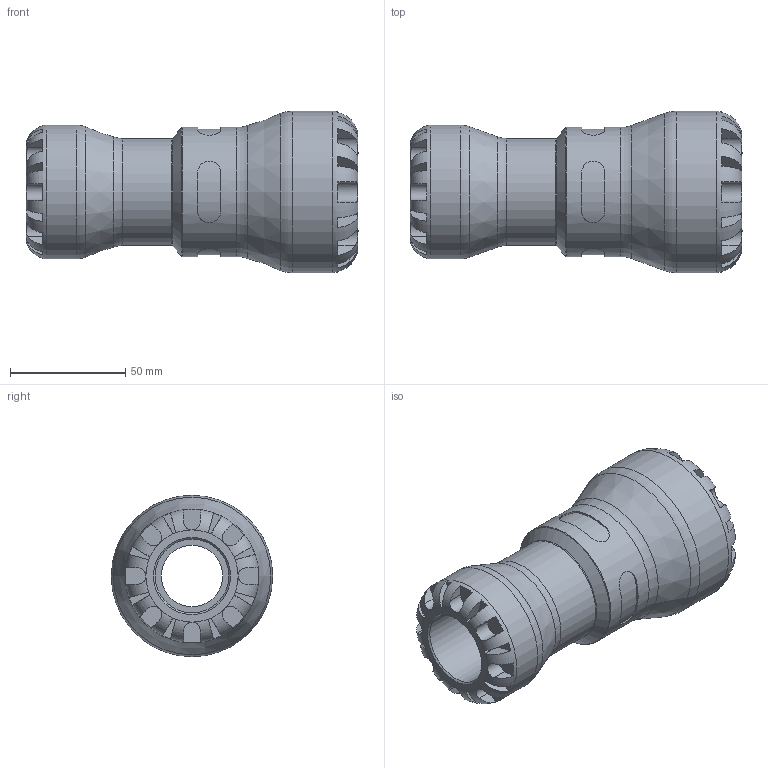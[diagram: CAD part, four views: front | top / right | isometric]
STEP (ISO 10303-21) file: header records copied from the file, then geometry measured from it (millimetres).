
FILE_DESCRIPTION(/* description */ ('PLASSON G-PLASS REDUCING COUPLING 40 x 32'),/* implementation_level */ '2;1');
FILE_NAME(/* name */ 'C:\Dropbox\KIMPROJECTS-Inventor 2019\99-16-3568-Processing\S1\151100\stp\151100040032.stp',/* time_stamp */ '2023-10-17T19:44:57+03:00',/* author */ ('KIM'),/* organization */ (''),/* preprocessor_version */ 'ST-DEVELOPER v17.2',/* originating_system */ 'Autodesk Inventor 2019',/* authorisation */ '');
FILE_SCHEMA (('AUTOMOTIVE_DESIGN { 1 0 10303 214 3 1 1 }'));
Length unit declared in the file: millimetre
Products named in the file (1): 151100040032
Bounding box: 144 x 70 x 70 mm (x, y, z)
Volume: 223664.9 mm3; surface area: 50429.4 mm2
Topology: 1 solids, 1 shells, 172 faces, 465 edges, 300 vertices
Faces by surface type: plane 108, cylinder 50, torus 8, cone 6
Full cylindrical faces by diameter (mm): 32 x1, 40 x1, 46.4 x1, 56 x1, 58 x1, 70 x1
Entity records: 6970 total; most frequent: CARTESIAN_POINT 2496, ORIENTED_EDGE 930, DIRECTION 895, EDGE_CURVE 465, AXIS2_PLACEMENT_3D 369, VERTEX_POINT 300, CIRCLE 196, EDGE_LOOP 179
